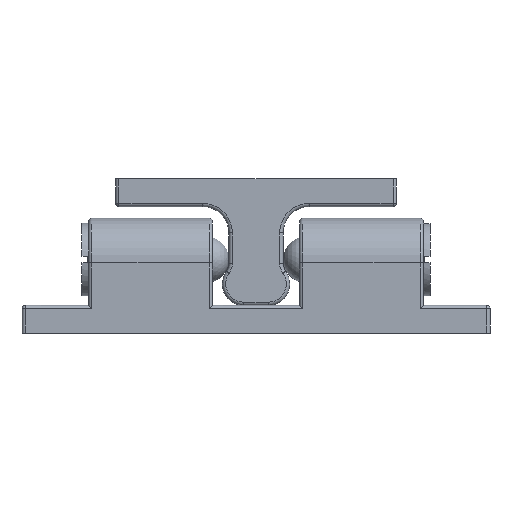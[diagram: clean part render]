
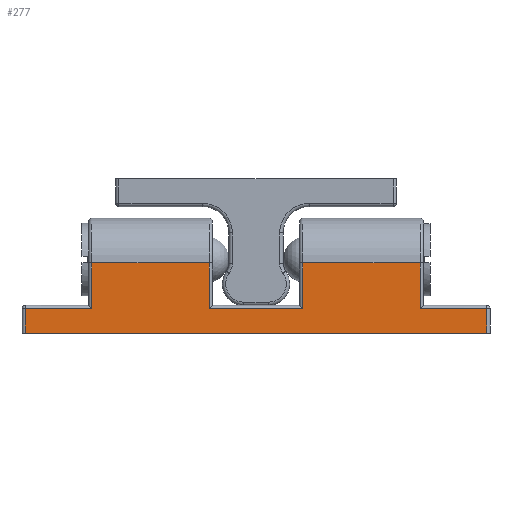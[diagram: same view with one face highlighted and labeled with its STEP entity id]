
A CAD part, front view. The second image highlights one B-rep face of the part: STEP entity #277.
In plain terms, the highlighted planar face has unit normal (0, -1, 0).
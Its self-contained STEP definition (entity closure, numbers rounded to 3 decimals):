
#112=FACE_OUTER_BOUND('',#621,.T.);
#220=PLANE('',#2289);
#277=ADVANCED_FACE('',(#112),#220,.T.);
#621=EDGE_LOOP('',(#860,#861,#862,#863,#864,#865,#866,#867,#868,#869,#870,
#871));
#860=ORIENTED_EDGE('',*,*,#1605,.T.);
#861=ORIENTED_EDGE('',*,*,#1606,.F.);
#862=ORIENTED_EDGE('',*,*,#1607,.T.);
#863=ORIENTED_EDGE('',*,*,#1608,.F.);
#864=ORIENTED_EDGE('',*,*,#1609,.T.);
#865=ORIENTED_EDGE('',*,*,#1610,.F.);
#866=ORIENTED_EDGE('',*,*,#1611,.T.);
#867=ORIENTED_EDGE('',*,*,#1612,.F.);
#868=ORIENTED_EDGE('',*,*,#1613,.T.);
#869=ORIENTED_EDGE('',*,*,#1580,.T.);
#870=ORIENTED_EDGE('',*,*,#1614,.F.);
#871=ORIENTED_EDGE('',*,*,#1604,.F.);
#1394=VERTEX_POINT('',#3301);
#1395=VERTEX_POINT('',#3303);
#1414=VERTEX_POINT('',#3352);
#1415=VERTEX_POINT('',#3354);
#1416=VERTEX_POINT('',#3358);
#1417=VERTEX_POINT('',#3360);
#1418=VERTEX_POINT('',#3362);
#1419=VERTEX_POINT('',#3364);
#1420=VERTEX_POINT('',#3366);
#1421=VERTEX_POINT('',#3368);
#1422=VERTEX_POINT('',#3370);
#1423=VERTEX_POINT('',#3372);
#1580=EDGE_CURVE('',#1395,#1394,#2023,.T.);
#1604=EDGE_CURVE('',#1415,#1414,#2036,.T.);
#1605=EDGE_CURVE('',#1415,#1416,#2037,.T.);
#1606=EDGE_CURVE('',#1417,#1416,#2038,.T.);
#1607=EDGE_CURVE('',#1417,#1418,#2039,.T.);
#1608=EDGE_CURVE('',#1419,#1418,#2040,.T.);
#1609=EDGE_CURVE('',#1419,#1420,#2041,.T.);
#1610=EDGE_CURVE('',#1421,#1420,#2042,.T.);
#1611=EDGE_CURVE('',#1421,#1422,#2043,.T.);
#1612=EDGE_CURVE('',#1423,#1422,#2044,.T.);
#1613=EDGE_CURVE('',#1423,#1395,#2045,.T.);
#1614=EDGE_CURVE('',#1414,#1394,#2046,.T.);
#2023=LINE('',#3302,#2144);
#2036=LINE('',#3355,#2157);
#2037=LINE('',#3357,#2158);
#2038=LINE('',#3359,#2159);
#2039=LINE('',#3361,#2160);
#2040=LINE('',#3363,#2161);
#2041=LINE('',#3365,#2162);
#2042=LINE('',#3367,#2163);
#2043=LINE('',#3369,#2164);
#2044=LINE('',#3371,#2165);
#2045=LINE('',#3373,#2166);
#2046=LINE('',#3374,#2167);
#2144=VECTOR('',#2588,1.);
#2157=VECTOR('',#2639,1.);
#2158=VECTOR('',#2642,1.);
#2159=VECTOR('',#2643,1.);
#2160=VECTOR('',#2644,1.);
#2161=VECTOR('',#2645,1.);
#2162=VECTOR('',#2646,1.);
#2163=VECTOR('',#2647,1.);
#2164=VECTOR('',#2648,1.);
#2165=VECTOR('',#2649,1.);
#2166=VECTOR('',#2650,1.);
#2167=VECTOR('',#2651,1.);
#2289=AXIS2_PLACEMENT_3D('',#3375,#2652,#2653);
#2588=DIRECTION('',(1.,0.,0.));
#2639=DIRECTION('',(1.,0.,0.));
#2642=DIRECTION('',(0.,0.,1.));
#2643=DIRECTION('',(1.,0.,0.));
#2644=DIRECTION('',(0.,0.,-1.));
#2645=DIRECTION('',(1.,0.,0.));
#2646=DIRECTION('',(0.,0.,1.));
#2647=DIRECTION('',(1.,0.,0.));
#2648=DIRECTION('',(0.,0.,-1.));
#2649=DIRECTION('',(1.,0.,0.));
#2650=DIRECTION('',(0.,0.,-1.));
#2651=DIRECTION('',(0.,0.,-1.));
#2652=DIRECTION('',(0.,-1.,0.));
#2653=DIRECTION('',(-1.,0.,0.));
#3301=CARTESIAN_POINT('',(35.,-6.75,-11.15));
#3302=CARTESIAN_POINT('',(-35.,-6.75,-11.15));
#3303=CARTESIAN_POINT('',(-35.,-6.75,-11.15));
#3352=CARTESIAN_POINT('',(35.,-6.75,-7.45));
#3354=CARTESIAN_POINT('',(24.9,-6.75,-7.45));
#3355=CARTESIAN_POINT('',(24.9,-6.75,-7.45));
#3357=CARTESIAN_POINT('',(24.9,-6.75,-7.45));
#3358=CARTESIAN_POINT('',(24.9,-6.75,-0.5));
#3359=CARTESIAN_POINT('',(7.1,-6.75,-0.5));
#3360=CARTESIAN_POINT('',(7.1,-6.75,-0.5));
#3361=CARTESIAN_POINT('',(7.1,-6.75,-0.5));
#3362=CARTESIAN_POINT('',(7.1,-6.75,-7.45));
#3363=CARTESIAN_POINT('',(-7.1,-6.75,-7.45));
#3364=CARTESIAN_POINT('',(-7.1,-6.75,-7.45));
#3365=CARTESIAN_POINT('',(-7.1,-6.75,-7.45));
#3366=CARTESIAN_POINT('',(-7.1,-6.75,-0.5));
#3367=CARTESIAN_POINT('',(-24.9,-6.75,-0.5));
#3368=CARTESIAN_POINT('',(-24.9,-6.75,-0.5));
#3369=CARTESIAN_POINT('',(-24.9,-6.75,-0.5));
#3370=CARTESIAN_POINT('',(-24.9,-6.75,-7.45));
#3371=CARTESIAN_POINT('',(-35.,-6.75,-7.45));
#3372=CARTESIAN_POINT('',(-35.,-6.75,-7.45));
#3373=CARTESIAN_POINT('',(-35.,-6.75,-7.45));
#3374=CARTESIAN_POINT('',(35.,-6.75,-7.45));
#3375=CARTESIAN_POINT('',(-35.5,-6.75,-11.15));
